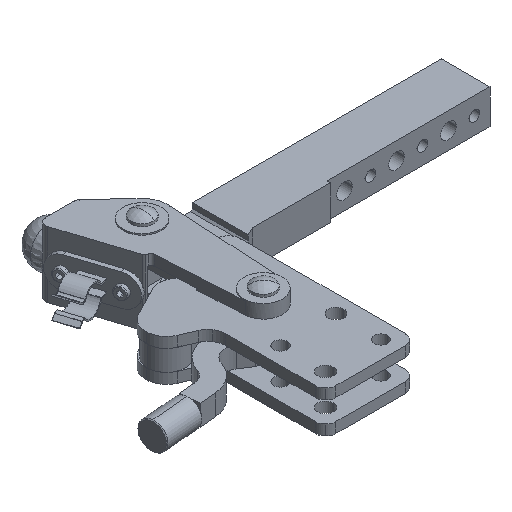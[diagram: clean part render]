
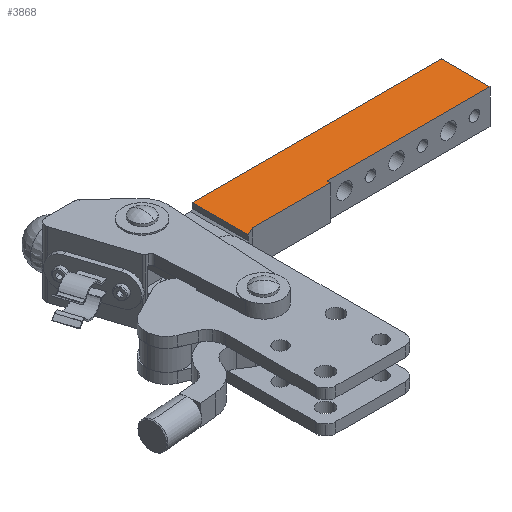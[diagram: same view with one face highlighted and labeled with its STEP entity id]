
A CAD part, isometric view. The second image highlights one B-rep face of the part: STEP entity #3868.
In plain terms, the highlighted planar face has unit normal (0, 0, 1).
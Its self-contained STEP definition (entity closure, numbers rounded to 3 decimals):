
#3522=CARTESIAN_POINT('',(-21.911,-22.837,-2.8));
#3523=VERTEX_POINT('',#3522);
#3530=CARTESIAN_POINT('',(-21.911,9.536,-2.8));
#3531=VERTEX_POINT('',#3530);
#3532=CARTESIAN_POINT('',(-21.911,9.536,-2.8));
#3533=DIRECTION('',(0.,-1.0,0.));
#3534=VECTOR('',#3533,32.373);
#3535=LINE('',#3532,#3534);
#3536=EDGE_CURVE('',#3531,#3523,#3535,.T.);
#3734=CARTESIAN_POINT('',(122.089,9.536,-2.8));
#3735=VERTEX_POINT('',#3734);
#3736=CARTESIAN_POINT('',(-21.911,9.536,-2.8));
#3737=DIRECTION('',(1.0,0.,0.));
#3738=VECTOR('',#3737,144.0);
#3739=LINE('',#3736,#3738);
#3740=EDGE_CURVE('',#3531,#3735,#3739,.T.);
#3821=CARTESIAN_POINT('',(-90.662,-44.177,-2.8));
#3822=DIRECTION('',(0.0,0.0,1.0));
#3823=DIRECTION('',(1.0,0.,0.0));
#3824=AXIS2_PLACEMENT_3D('',#3821,#3822,#3823);
#3825=PLANE('',#3824);
#3826=ORIENTED_EDGE('',*,*,#3536,.T.);
#3827=CARTESIAN_POINT('',(-17.052,-20.464,-2.8));
#3828=VERTEX_POINT('',#3827);
#3829=CARTESIAN_POINT('',(-17.052,-20.464,-2.8));
#3830=DIRECTION('',(-0.899,-0.439,0.0));
#3831=VECTOR('',#3830,5.408);
#3832=LINE('',#3829,#3831);
#3833=EDGE_CURVE('',#3828,#3523,#3832,.T.);
#3834=ORIENTED_EDGE('',*,*,#3833,.F.);
#3835=CARTESIAN_POINT('',(28.089,-20.464,-2.8));
#3836=VERTEX_POINT('',#3835);
#3837=CARTESIAN_POINT('',(28.089,-20.464,-2.8));
#3838=DIRECTION('',(-1.0,0.,0.0));
#3839=VECTOR('',#3838,45.141);
#3840=LINE('',#3837,#3839);
#3841=EDGE_CURVE('',#3836,#3828,#3840,.T.);
#3842=ORIENTED_EDGE('',*,*,#3841,.F.);
#3843=CARTESIAN_POINT('',(28.089,-18.464,-2.8));
#3844=VERTEX_POINT('',#3843);
#3845=CARTESIAN_POINT('',(28.089,-18.464,-2.8));
#3846=DIRECTION('',(0.,-1.0,0.0));
#3847=VECTOR('',#3846,2.);
#3848=LINE('',#3845,#3847);
#3849=EDGE_CURVE('',#3844,#3836,#3848,.T.);
#3850=ORIENTED_EDGE('',*,*,#3849,.F.);
#3851=CARTESIAN_POINT('',(122.089,-18.464,-2.8));
#3852=VERTEX_POINT('',#3851);
#3853=CARTESIAN_POINT('',(122.089,-18.464,-2.8));
#3854=DIRECTION('',(-1.0,0.,0.));
#3855=VECTOR('',#3854,94.);
#3856=LINE('',#3853,#3855);
#3857=EDGE_CURVE('',#3852,#3844,#3856,.T.);
#3858=ORIENTED_EDGE('',*,*,#3857,.F.);
#3859=CARTESIAN_POINT('',(122.089,9.536,-2.8));
#3860=DIRECTION('',(0.,-1.0,0.));
#3861=VECTOR('',#3860,28.);
#3862=LINE('',#3859,#3861);
#3863=EDGE_CURVE('',#3735,#3852,#3862,.T.);
#3864=ORIENTED_EDGE('',*,*,#3863,.F.);
#3865=ORIENTED_EDGE('',*,*,#3740,.F.);
#3866=EDGE_LOOP('',(#3826,#3834,#3842,#3850,#3858,#3864,#3865));
#3867=FACE_OUTER_BOUND('',#3866,.T.);
#3868=ADVANCED_FACE('',(#3867),#3825,.T.);
